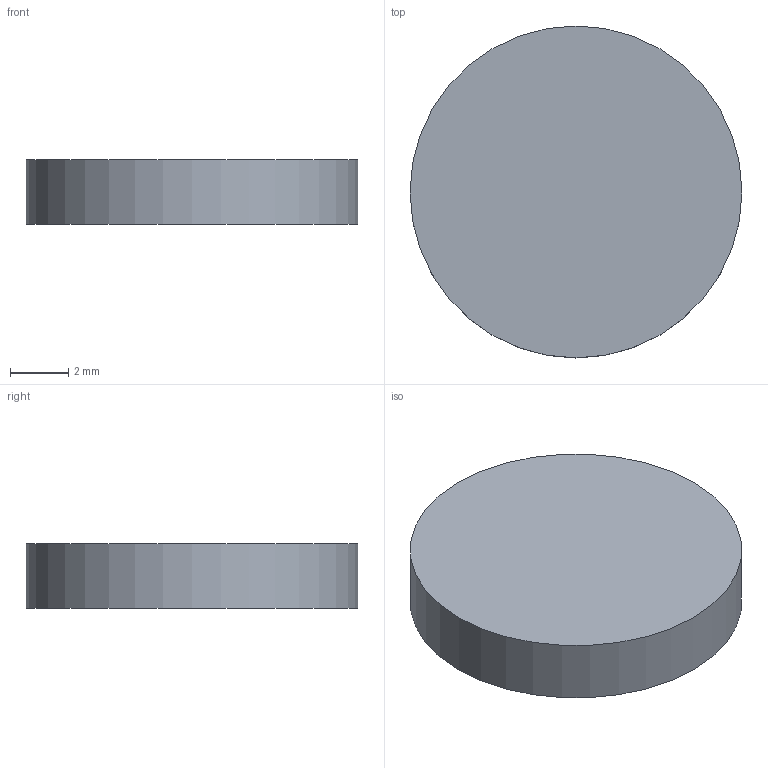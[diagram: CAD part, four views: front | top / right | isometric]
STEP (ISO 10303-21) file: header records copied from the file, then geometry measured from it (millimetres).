
FILE_DESCRIPTION(('FreeCAD Model'),'2;1');
FILE_NAME('Open CASCADE Shape Model','2026-09-22T01:38:06',('FreeCAD'),( 'FreeCAD'),'Open CASCADE STEP processor 7.8','FreeCAD','Unknown');
FILE_SCHEMA(('AUTOMOTIVE_DESIGN { 1 0 10303 214 1 1 1 1 }'));
Length unit declared in the file: millimetre
Products named in the file (1): Open CASCADE STEP translator 7.8 4
Bounding box: 11.4 x 11.4 x 2.2 mm (x, y, z)
Volume: 224.6 mm3; surface area: 282.9 mm2
Topology: 1 solids, 1 shells, 3 faces, 3 edges, 2 vertices
Faces by surface type: plane 2, cylinder 1
Full cylindrical faces by diameter (mm): 11.4 x1
Entity records: 69 total; most frequent: DIRECTION 13, CARTESIAN_POINT 9, AXIS2_PLACEMENT_3D 6, ORIENTED_EDGE 6, ADVANCED_FACE 3, FACE_BOUND 3, EDGE_LOOP 3, EDGE_CURVE 3
